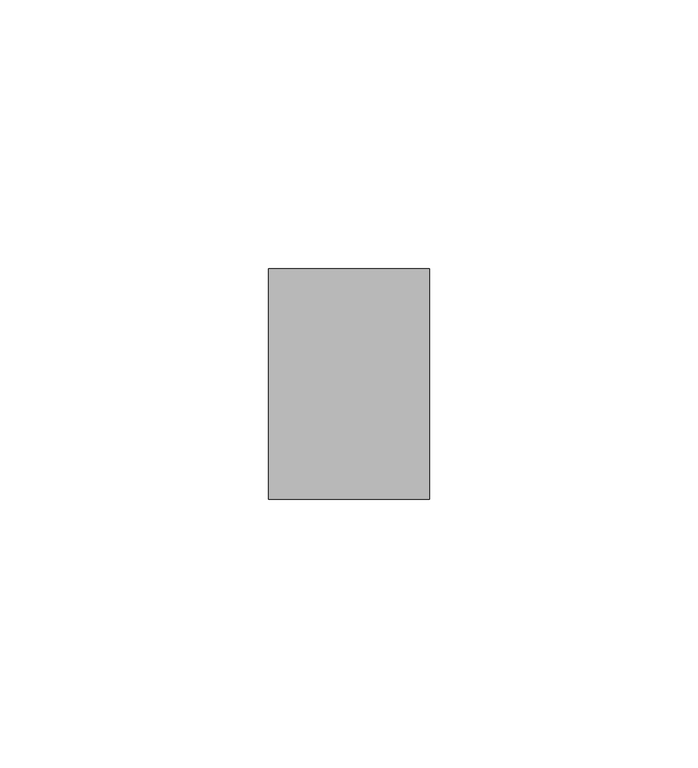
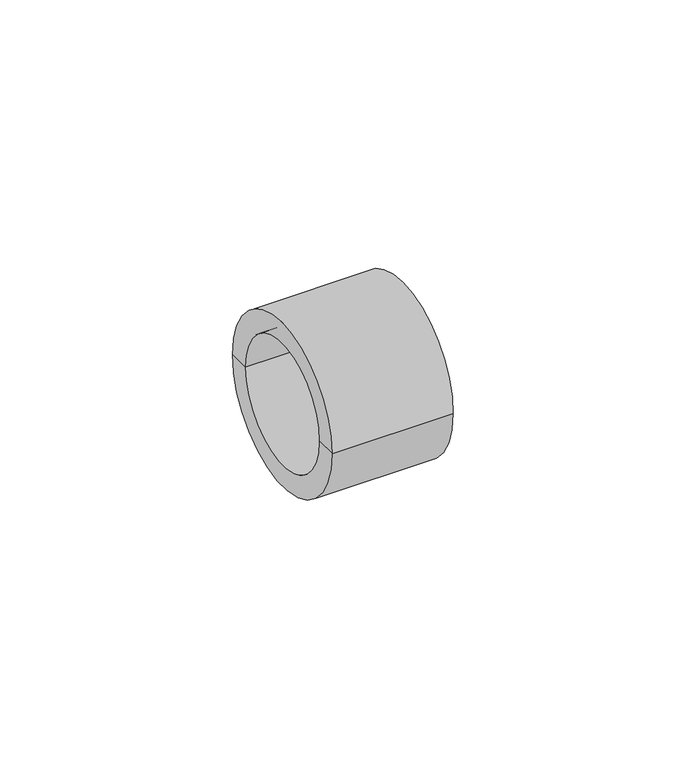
"""IFC4 building model written with IfcOpenShell, lengths in millimetres: pipe fitting geometry, EGB_VASEN_ PPR_Tapon WXR700 : Tapón WXR700."""

from ifc_helpers import new_model, si_unit, frame, origin, place, context, project, spatial, polyline, circle_curve, source, transform, mapped, element, save
from ifc_brep_helpers import plane_surface, cylinder_surface, revolved_surface, advanced_brep


def pipe_fitting_e99bbc88(model_context):
    return source(origin(), model_context, "Body", "AdvancedBrep", [
        advanced_brep(
        [(0.0, -21.5, 0.0), (0.0, 21.5, 0.0), (30.0, 21.5, 0.0), (30.0, -21.5, 0.0), (0.0, -16.0, 0.0), (0.0, 16.0, 0.0), (24.5, -16.0, 0.0), (24.5, 16.0, 0.0), (24.5, 0.0, 0.0), (30.0, 0.0, 0.0)],
        [
            (0, 1, circle_curve(frame((0.0, 0.0, 0.0), z_axis=(1.0, 0.0, 0.0), x_axis=(0.0, 1.0, 0.0)), 21.5)),
            (1, 2),
            (2, 3, circle_curve(frame((30.0, 0.0, 0.0), z_axis=(-1.0, 0.0, 0.0), x_axis=(0.0, 1.0, 0.0)), 21.5)),
            (3, 0),
            (1, 0, circle_curve(frame((0.0, 0.0, 0.0), z_axis=(1.0, 0.0, 0.0), x_axis=(0.0, 1.0, 0.0)), 21.5)),
            (3, 2, circle_curve(frame((30.0, 0.0, 0.0), z_axis=(-1.0, 0.0, 0.0), x_axis=(0.0, 1.0, 0.0)), 21.5)),
            (4, 5, circle_curve(frame((0.0, 0.0, 0.0), z_axis=(1.0, 0.0, 0.0), x_axis=(0.0, 1.0, 0.0)), 16.0)),
            (5, 1),
            (0, 4),
            (5, 4, circle_curve(frame((0.0, 0.0, 0.0), z_axis=(1.0, 0.0, 0.0), x_axis=(0.0, 1.0, 0.0)), 16.0)),
            (6, 7, circle_curve(frame((24.5, 0.0, 0.0), z_axis=(1.0, 0.0, 0.0), x_axis=(0.0, 1.0, 0.0)), 16.0)),
            (7, 5),
            (4, 6),
            (7, 6, circle_curve(frame((24.5, 0.0, 0.0), z_axis=(1.0, 0.0, 0.0), x_axis=(0.0, 1.0, 0.0)), 16.0)),
            (8, 7),
            (6, 8),
            (2, 9),
            (9, 3),
        ],
        [
            cylinder_surface(frame((17.758615, 0.0, 0.0), z_axis=(-1.0, 0.0, 0.0), x_axis=(0.0, 1.0, 0.0)), 21.5),
            plane_surface(frame((0.0, 0.0, 0.0), z_axis=(-1.0, 0.0, 0.0), x_axis=(0.0, 1.0, 0.0))),
            revolved_surface(polyline([(0.0, 16.0, 0.0), (24.5, 16.0, 0.0)]), (17.758615, 0.0, 0.0), (-1.0, 0.0, 0.0)),
            plane_surface(frame((24.5, 0.0, 0.0), z_axis=(-1.0, 0.0, 0.0), x_axis=(0.0, 1.0, 0.0))),
            plane_surface(frame((30.0, 0.0, 0.0), z_axis=(1.0, 0.0, 0.0), x_axis=(0.0, 1.0, 0.0))),
        ],
        [
            (0, [[1, 2, 3, 4]]),
            (0, [[5, -4, 6, -2]]),
            (1, [[7, 8, -1, 9]]),
            (1, [[10, -9, -5, -8]]),
            (2, [[11, 12, -7, 13]]),
            (2, [[14, -13, -10, -12]]),
            (3, [[15, -11, 16]]),
            (3, [[-16, -14, -15]]),
            (4, [[-3, 17, 18]]),
            (4, [[-6, -18, -17]]),
        ],
    ),
    ])


if __name__ == "__main__":
    model = new_model("IFC4")
    model_context = context("Model", 3, world=origin())
    ifc_project = project(units=[si_unit("LENGTHUNIT", "METRE", prefix="MILLI")], contexts=[model_context])
    site = spatial("IfcSite", under=ifc_project)
    building = spatial("IfcBuilding", under=site)
    placement = place(None, origin())
    pipe_fitting_shape = pipe_fitting_e99bbc88(model_context)
    element("IfcPipeFitting", 1, ObjectType="EGB_VASEN_ PPR_Tapon WXR700 : Tapón WXR700", at=placement, inside=building, context=model_context, shape_type="MappedRepresentation", body=[
        mapped(pipe_fitting_shape, transform((0.0, 0.0, 0.0), x_axis=(1.0, 0.0, 0.0), y_axis=(0.0, 1.0, 0.0), z_axis=(0.0, 0.0, 1.0))),
    ])
    save(model, "model.ifc")
